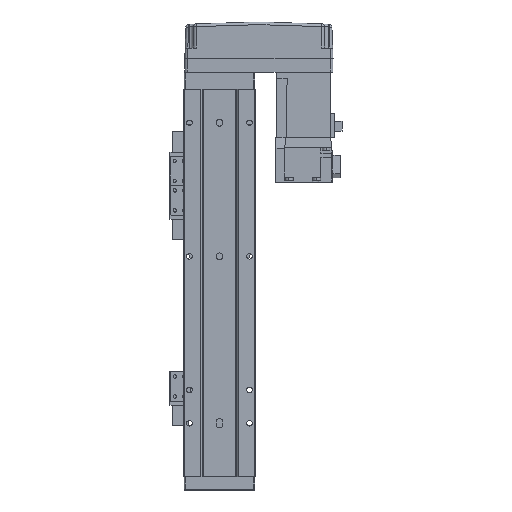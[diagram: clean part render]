
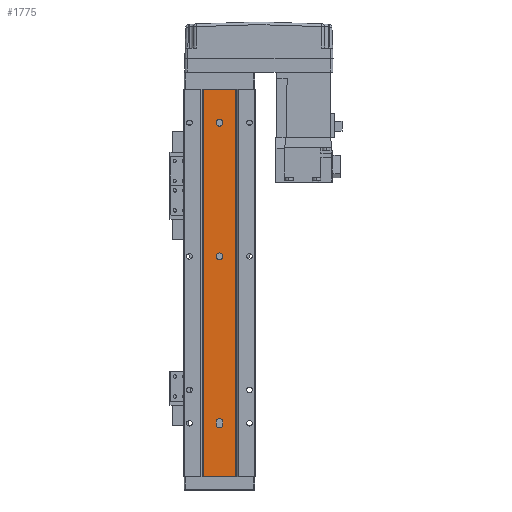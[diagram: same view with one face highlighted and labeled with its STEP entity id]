
A CAD part, front view. The second image highlights one B-rep face of the part: STEP entity #1775.
In plain terms, the highlighted planar face has unit normal (0, -1, 0).
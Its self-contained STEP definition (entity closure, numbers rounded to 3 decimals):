
#357 = VERTEX_POINT ( 'NONE', #31266 ) ;
#381 = CARTESIAN_POINT ( 'NONE',  ( -12.293, 1.5, -290. ) ) ;
#735 = VERTEX_POINT ( 'NONE', #28221 ) ;
#1775 = ADVANCED_FACE ( 'NONE', ( #9453, #21337, #6436, #20477 ), #5334, .T. ) ;
#1916 = ORIENTED_EDGE ( 'NONE', *, *, #29583, .F. ) ;
#2986 = CIRCLE ( 'NONE', #9345, 2.5 ) ;
#3379 = EDGE_LOOP ( 'NONE', ( #21137, #4972 ) ) ;
#3538 = CIRCLE ( 'NONE', #19915, 2.5 ) ;
#3752 = LINE ( 'NONE', #36309, #31958 ) ;
#3755 = DIRECTION ( 'NONE',  ( 0., -1., 0. ) ) ;
#4587 = EDGE_CURVE ( 'NONE', #34986, #24932, #3752, .T. ) ;
#4972 = ORIENTED_EDGE ( 'NONE', *, *, #23267, .F. ) ;
#5074 = DIRECTION ( 'NONE',  ( 0., -1., 0. ) ) ;
#5155 = CIRCLE ( 'NONE', #10675, 2.5 ) ;
#5263 = ORIENTED_EDGE ( 'NONE', *, *, #4587, .F. ) ;
#5334 = PLANE ( 'NONE',  #9699 ) ;
#5649 = VERTEX_POINT ( 'NONE', #26639 ) ;
#6271 = CARTESIAN_POINT ( 'NONE',  ( 0., 1.5, -25. ) ) ;
#6367 = CIRCLE ( 'NONE', #12237, 2.5 ) ;
#6436 = FACE_BOUND ( 'NONE', #28839, .T. ) ;
#6602 = CARTESIAN_POINT ( 'NONE',  ( -2.5, 1.5, -290. ) ) ;
#6700 = DIRECTION ( 'NONE',  ( 0., 0., -1. ) ) ;
#6824 = EDGE_LOOP ( 'NONE', ( #8262, #5263, #28774, #13850 ) ) ;
#7293 = ORIENTED_EDGE ( 'NONE', *, *, #34527, .F. ) ;
#8173 = EDGE_CURVE ( 'NONE', #33338, #27697, #32654, .T. ) ;
#8262 = ORIENTED_EDGE ( 'NONE', *, *, #20585, .F. ) ;
#8470 = EDGE_LOOP ( 'NONE', ( #17276, #7293, #25824, #1916 ) ) ;
#8604 = VECTOR ( 'NONE', #9237, 1000. ) ;
#9237 = DIRECTION ( 'NONE',  ( 0., 0., 1. ) ) ;
#9270 = CARTESIAN_POINT ( 'NONE',  ( 0., 1.5, -125. ) ) ;
#9345 = AXIS2_PLACEMENT_3D ( 'NONE', #6271, #22947, #25754 ) ;
#9387 = DIRECTION ( 'NONE',  ( 1., 0., 0. ) ) ;
#9395 = DIRECTION ( 'NONE',  ( 1., 0., 0. ) ) ;
#9453 = FACE_BOUND ( 'NONE', #8470, .T. ) ;
#9634 = DIRECTION ( 'NONE',  ( 0., -1., 0. ) ) ;
#9699 = AXIS2_PLACEMENT_3D ( 'NONE', #21744, #5074, #36237 ) ;
#9711 = ORIENTED_EDGE ( 'NONE', *, *, #20893, .F. ) ;
#10461 = AXIS2_PLACEMENT_3D ( 'NONE', #18597, #9634, #21189 ) ;
#10481 = CIRCLE ( 'NONE', #13635, 2.5 ) ;
#10594 = DIRECTION ( 'NONE',  ( 0., 0., 1. ) ) ;
#10675 = AXIS2_PLACEMENT_3D ( 'NONE', #18090, #15315, #9395 ) ;
#11927 = DIRECTION ( 'NONE',  ( 1., 0., 0. ) ) ;
#12041 = DIRECTION ( 'NONE',  ( 0., 0., 1. ) ) ;
#12072 = DIRECTION ( 'NONE',  ( 1., 0., 0. ) ) ;
#12237 = AXIS2_PLACEMENT_3D ( 'NONE', #9270, #3755, #9387 ) ;
#13026 = VERTEX_POINT ( 'NONE', #32544 ) ;
#13095 = CARTESIAN_POINT ( 'NONE',  ( -12.293, 1.5, 0. ) ) ;
#13635 = AXIS2_PLACEMENT_3D ( 'NONE', #22100, #33588, #30840 ) ;
#13850 = ORIENTED_EDGE ( 'NONE', *, *, #30733, .T. ) ;
#14627 = CARTESIAN_POINT ( 'NONE',  ( 2.5, 1.5, -290. ) ) ;
#15315 = DIRECTION ( 'NONE',  ( 0., -1., 0. ) ) ;
#16493 = VERTEX_POINT ( 'NONE', #26955 ) ;
#16558 = CARTESIAN_POINT ( 'NONE',  ( -2.5, 1.5, -25. ) ) ;
#17276 = ORIENTED_EDGE ( 'NONE', *, *, #8173, .F. ) ;
#18090 = CARTESIAN_POINT ( 'NONE',  ( 0., 1.5, -25. ) ) ;
#18597 = CARTESIAN_POINT ( 'NONE',  ( 0., 1.5, -251. ) ) ;
#19510 = CARTESIAN_POINT ( 'NONE',  ( 12.293, 1.5, 0. ) ) ;
#19915 = AXIS2_PLACEMENT_3D ( 'NONE', #26063, #24087, #12072 ) ;
#20013 = VERTEX_POINT ( 'NONE', #36134 ) ;
#20028 = LINE ( 'NONE', #23146, #8604 ) ;
#20477 = FACE_OUTER_BOUND ( 'NONE', #6824, .T. ) ;
#20585 = EDGE_CURVE ( 'NONE', #24932, #357, #34728, .T. ) ;
#20893 = EDGE_CURVE ( 'NONE', #23030, #13026, #5155, .T. ) ;
#21137 = ORIENTED_EDGE ( 'NONE', *, *, #35693, .F. ) ;
#21189 = DIRECTION ( 'NONE',  ( 1., 0., 0. ) ) ;
#21337 = FACE_BOUND ( 'NONE', #3379, .T. ) ;
#21744 = CARTESIAN_POINT ( 'NONE',  ( 12.293, 1.5, -290. ) ) ;
#22100 = CARTESIAN_POINT ( 'NONE',  ( 0., 1.5, -249. ) ) ;
#22226 = DIRECTION ( 'NONE',  ( 1., 0., 0. ) ) ;
#22632 = ORIENTED_EDGE ( 'NONE', *, *, #36420, .F. ) ;
#22947 = DIRECTION ( 'NONE',  ( 0., -1., 0. ) ) ;
#23010 = EDGE_CURVE ( 'NONE', #20013, #29174, #10481, .T. ) ;
#23030 = VERTEX_POINT ( 'NONE', #16558 ) ;
#23146 = CARTESIAN_POINT ( 'NONE',  ( 12.293, 1.5, -290. ) ) ;
#23267 = EDGE_CURVE ( 'NONE', #16493, #5649, #6367, .T. ) ;
#23583 = CARTESIAN_POINT ( 'NONE',  ( -2.5, 1.5, -251. ) ) ;
#24087 = DIRECTION ( 'NONE',  ( 0., -1., 0. ) ) ;
#24932 = VERTEX_POINT ( 'NONE', #13095 ) ;
#25754 = DIRECTION ( 'NONE',  ( 1., 0., 0. ) ) ;
#25824 = ORIENTED_EDGE ( 'NONE', *, *, #23010, .F. ) ;
#25943 = EDGE_CURVE ( 'NONE', #34986, #735, #31510, .T. ) ;
#26063 = CARTESIAN_POINT ( 'NONE',  ( 0., 1.5, -125. ) ) ;
#26160 = CARTESIAN_POINT ( 'NONE',  ( 2.5, 1.5, -251. ) ) ;
#26639 = CARTESIAN_POINT ( 'NONE',  ( 2.5, 1.5, -125. ) ) ;
#26955 = CARTESIAN_POINT ( 'NONE',  ( -2.5, 1.5, -125. ) ) ;
#27286 = VECTOR ( 'NONE', #12041, 1000. ) ;
#27697 = VERTEX_POINT ( 'NONE', #26160 ) ;
#28221 = CARTESIAN_POINT ( 'NONE',  ( 12.293, 1.5, -290. ) ) ;
#28774 = ORIENTED_EDGE ( 'NONE', *, *, #25943, .T. ) ;
#28839 = EDGE_LOOP ( 'NONE', ( #22632, #9711 ) ) ;
#29174 = VERTEX_POINT ( 'NONE', #33018 ) ;
#29583 = EDGE_CURVE ( 'NONE', #27697, #20013, #34851, .T. ) ;
#30571 = LINE ( 'NONE', #6602, #35917 ) ;
#30733 = EDGE_CURVE ( 'NONE', #735, #357, #20028, .T. ) ;
#30840 = DIRECTION ( 'NONE',  ( 1., 0., 0. ) ) ;
#31266 = CARTESIAN_POINT ( 'NONE',  ( 12.293, 1.5, 0. ) ) ;
#31510 = LINE ( 'NONE', #34859, #35950 ) ;
#31958 = VECTOR ( 'NONE', #10594, 1000. ) ;
#32544 = CARTESIAN_POINT ( 'NONE',  ( 2.5, 1.5, -25. ) ) ;
#32654 = CIRCLE ( 'NONE', #10461, 2.5 ) ;
#33018 = CARTESIAN_POINT ( 'NONE',  ( -2.5, 1.5, -249. ) ) ;
#33338 = VERTEX_POINT ( 'NONE', #23583 ) ;
#33588 = DIRECTION ( 'NONE',  ( 0., -1., 0. ) ) ;
#34527 = EDGE_CURVE ( 'NONE', #29174, #33338, #30571, .T. ) ;
#34728 = LINE ( 'NONE', #19510, #35608 ) ;
#34851 = LINE ( 'NONE', #14627, #27286 ) ;
#34859 = CARTESIAN_POINT ( 'NONE',  ( 12.293, 1.5, -290. ) ) ;
#34986 = VERTEX_POINT ( 'NONE', #381 ) ;
#35608 = VECTOR ( 'NONE', #22226, 1000. ) ;
#35693 = EDGE_CURVE ( 'NONE', #5649, #16493, #3538, .T. ) ;
#35917 = VECTOR ( 'NONE', #6700, 1000. ) ;
#35950 = VECTOR ( 'NONE', #11927, 1000. ) ;
#36134 = CARTESIAN_POINT ( 'NONE',  ( 2.5, 1.5, -249. ) ) ;
#36237 = DIRECTION ( 'NONE',  ( 1., 0., 0. ) ) ;
#36309 = CARTESIAN_POINT ( 'NONE',  ( -12.293, 1.5, -290. ) ) ;
#36420 = EDGE_CURVE ( 'NONE', #13026, #23030, #2986, .T. ) ;
